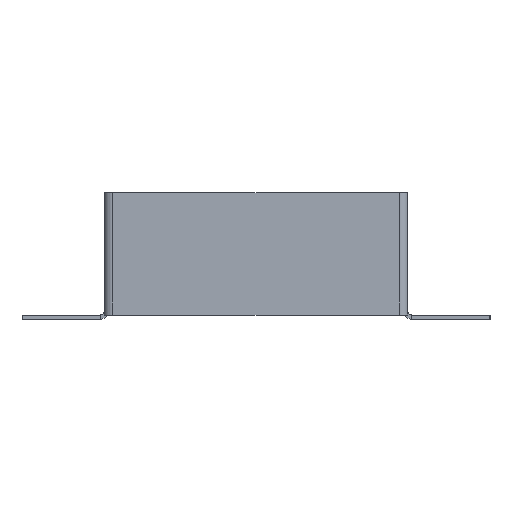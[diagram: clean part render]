
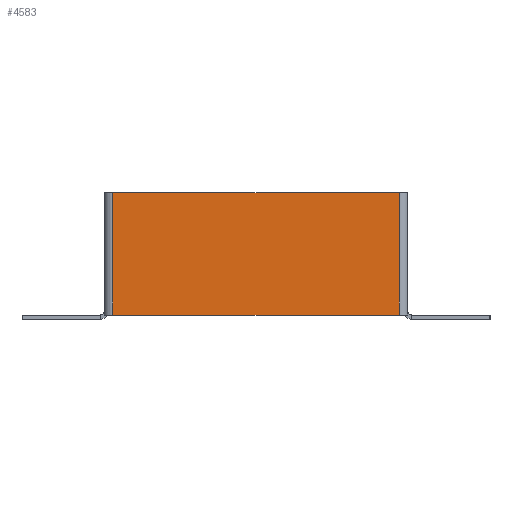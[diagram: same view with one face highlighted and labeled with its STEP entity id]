
A CAD part, front view. The second image highlights one B-rep face of the part: STEP entity #4583.
In plain terms, the highlighted planar face has unit normal (0, -1, 0).
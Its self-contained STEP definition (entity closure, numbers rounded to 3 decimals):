
#9 = DIRECTION ( 'NONE',  ( 0., 1., 0. ) ) ;
#211 = EDGE_CURVE ( 'NONE', #5927, #4246, #3584, .T. ) ;
#286 = EDGE_CURVE ( 'NONE', #5927, #6962, #4008, .T. ) ;
#378 = CARTESIAN_POINT ( 'NONE',  ( -70., -2., -58. ) ) ;
#444 = CARTESIAN_POINT ( 'NONE',  ( -68., -2., 0. ) ) ;
#593 = CARTESIAN_POINT ( 'NONE',  ( 0., -2., 0. ) ) ;
#682 = VECTOR ( 'NONE', #1559, 1000. ) ;
#808 = CARTESIAN_POINT ( 'NONE',  ( 68., -2., -58. ) ) ;
#1525 = VERTEX_POINT ( 'NONE', #444 ) ;
#1559 = DIRECTION ( 'NONE',  ( -1., 0., 0. ) ) ;
#1583 = CARTESIAN_POINT ( 'NONE',  ( 68., -2., -58. ) ) ;
#1726 = ORIENTED_EDGE ( 'NONE', *, *, #2988, .T. ) ;
#1917 = LINE ( 'NONE', #7250, #6881 ) ;
#2178 = CARTESIAN_POINT ( 'NONE',  ( 68., -2., 0. ) ) ;
#2263 = DIRECTION ( 'NONE',  ( 0., 0., 1. ) ) ;
#2603 = CARTESIAN_POINT ( 'NONE',  ( -68., -2., 0. ) ) ;
#2988 = EDGE_CURVE ( 'NONE', #1525, #4246, #6747, .T. ) ;
#3229 = DIRECTION ( 'NONE',  ( 1., 0., 0. ) ) ;
#3278 = VECTOR ( 'NONE', #7274, 1000. ) ;
#3584 = LINE ( 'NONE', #378, #682 ) ;
#3800 = VECTOR ( 'NONE', #2263, 1000. ) ;
#3883 = FACE_OUTER_BOUND ( 'NONE', #5306, .T. ) ;
#4005 = DIRECTION ( 'NONE',  ( 0., 0., 1. ) ) ;
#4008 = LINE ( 'NONE', #1583, #3800 ) ;
#4215 = CARTESIAN_POINT ( 'NONE',  ( -68., -2., -58. ) ) ;
#4246 = VERTEX_POINT ( 'NONE', #4215 ) ;
#4583 = ADVANCED_FACE ( 'NONE', ( #3883 ), #5380, .F. ) ;
#4865 = ORIENTED_EDGE ( 'NONE', *, *, #211, .F. ) ;
#5201 = EDGE_CURVE ( 'NONE', #1525, #6962, #1917, .T. ) ;
#5306 = EDGE_LOOP ( 'NONE', ( #1726, #4865, #8086, #5799 ) ) ;
#5380 = PLANE ( 'NONE',  #5744 ) ;
#5744 = AXIS2_PLACEMENT_3D ( 'NONE', #593, #9, #4005 ) ;
#5799 = ORIENTED_EDGE ( 'NONE', *, *, #5201, .F. ) ;
#5927 = VERTEX_POINT ( 'NONE', #808 ) ;
#6747 = LINE ( 'NONE', #2603, #3278 ) ;
#6881 = VECTOR ( 'NONE', #3229, 1000. ) ;
#6962 = VERTEX_POINT ( 'NONE', #2178 ) ;
#7250 = CARTESIAN_POINT ( 'NONE',  ( -70., -2., 0. ) ) ;
#7274 = DIRECTION ( 'NONE',  ( 0., 0., -1. ) ) ;
#8086 = ORIENTED_EDGE ( 'NONE', *, *, #286, .T. ) ;
